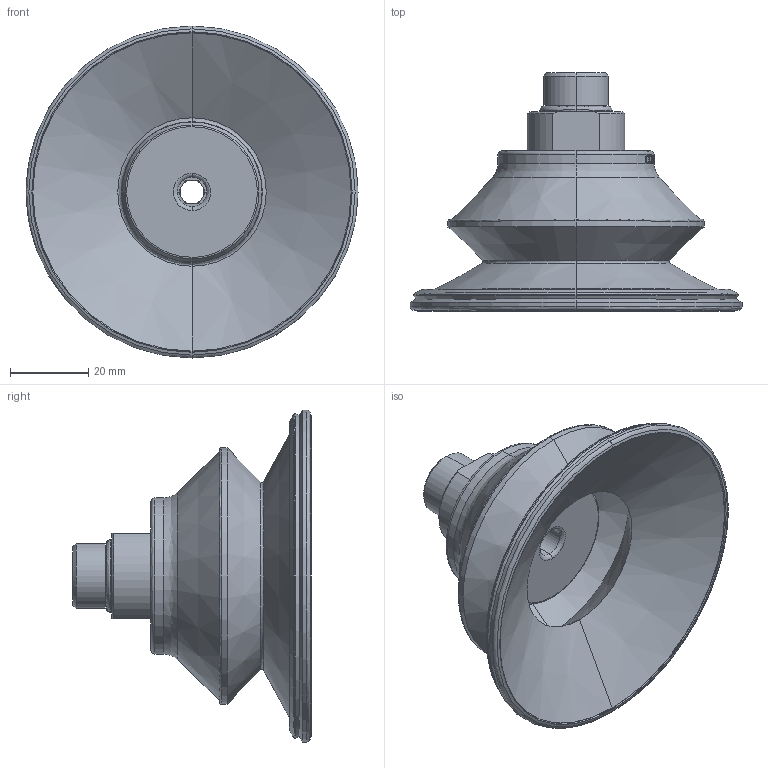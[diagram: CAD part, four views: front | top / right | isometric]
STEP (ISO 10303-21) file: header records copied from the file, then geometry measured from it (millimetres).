
FILE_DESCRIPTION (( 'STEP AP214' ), '1' );
FILE_NAME ('VBC 85.STEP', '2019-11-26T03:55:36', ( '微软用户' ), ( '微软中国' ), 'SwSTEP 2.0', 'SolidWorks 2016', '' );
FILE_SCHEMA (( 'AUTOMOTIVE_DESIGN' ));
Length unit declared in the file: millimetre
Products named in the file (1): VBC 85
Bounding box: 85 x 61 x 85 mm (x, y, z)
Volume: 56175.1 mm3; surface area: 28462.8 mm2
Topology: 3 solids, 3 shells, 176 faces, 400 edges, 244 vertices
Faces by surface type: bspline 63, plane 41, cylinder 38, cone 34
Entity records: 14469 total; most frequent: CARTESIAN_POINT 8759, ORIENTED_EDGE 800, DIRECTION 724, EDGE_CURVE 400, AXIS2_PLACEMENT_3D 284, VERTEX_POINT 244, EDGE_LOOP 196, UNCERTAINTY_MEASURE_WITH_UNIT 181
